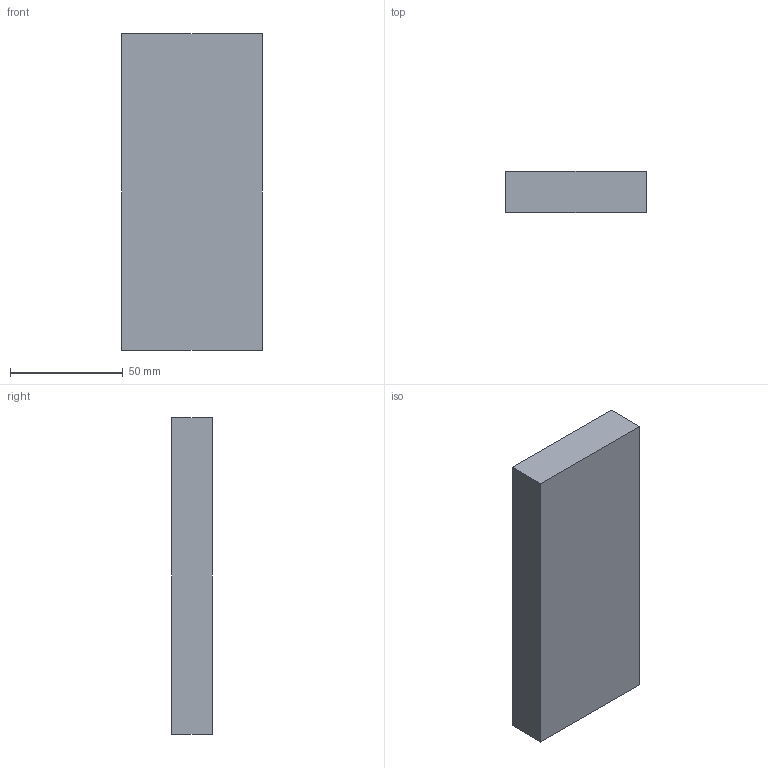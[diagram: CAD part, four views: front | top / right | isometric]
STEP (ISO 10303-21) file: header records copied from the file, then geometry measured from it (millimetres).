
FILE_DESCRIPTION(('Open CASCADE Model'),'2;1');
FILE_NAME('Open CASCADE Shape Model','2026-09-19T23:46:39',('Author'),( 'Open CASCADE'),'Open CASCADE STEP processor 7.9','Open CASCADE 7.9' ,'Unknown');
FILE_SCHEMA(('AUTOMOTIVE_DESIGN { 1 0 10303 214 1 1 1 1 }'));
Length unit declared in the file: millimetre
Products named in the file (1): Open CASCADE STEP translator 7.9 17
Bounding box: 62 x 18 x 140 mm (x, y, z)
Volume: 156240 mm3; surface area: 24632 mm2
Topology: 1 solids, 1 shells, 6 faces, 12 edges, 8 vertices
Faces by surface type: plane 6
Entity records: 322 total; most frequent: CARTESIAN_POINT 51, DIRECTION 50, LINE 36, VECTOR 36, ORIENTED_EDGE 24, PCURVE 24, DEFINITIONAL_REPRESENTATION 24, EDGE_CURVE 12
